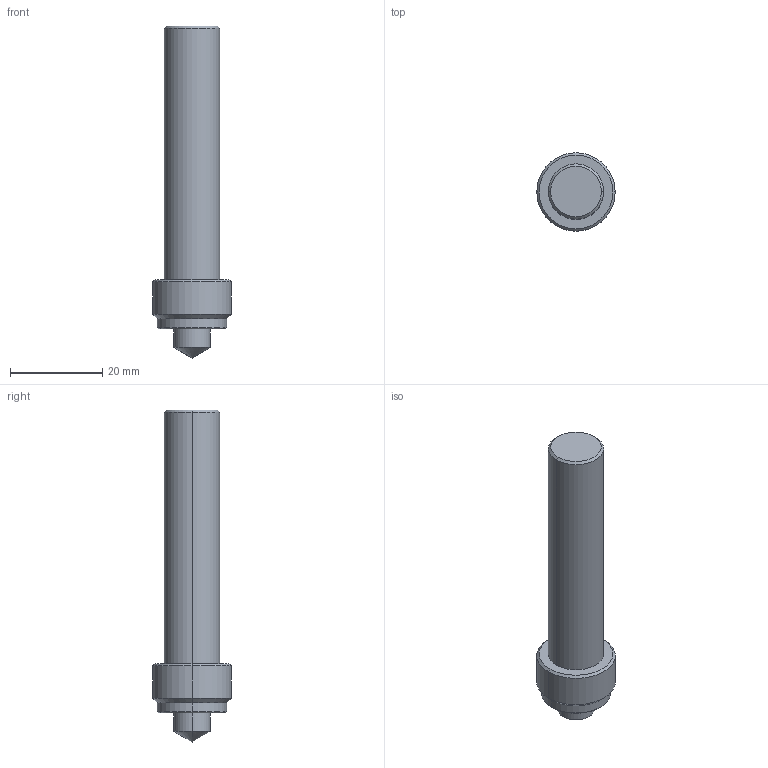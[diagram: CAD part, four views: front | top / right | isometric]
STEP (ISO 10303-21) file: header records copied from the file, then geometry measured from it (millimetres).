
FILE_DESCRIPTION(('STEP AP214'),'1');
FILE_NAME('cctmp_E7A9D4CE-DB0E-4CA4-A682-CF4202E79A1F_2021_04_06_14_05_31_0271..stp','2021-04-06T12:05:31',('Meusburger Georg GmbH & Co KG'),('CADClick - www.CADClick.com'),'Spatial InterOp 3D',' ','unknown authorization');
FILE_SCHEMA(('AUTOMOTIVE_DESIGN { 1 0 10303 214 1 1 1 1 }'));
Length unit declared in the file: millimetre
Products named in the file (1): WZB 119225_14.98
Bounding box: 17 x 17 x 72 mm (x, y, z)
Volume: 8735.7 mm3; surface area: 3124.1 mm2
Topology: 1 solids, 1 shells, 21 faces, 42 edges, 23 vertices
Faces by surface type: cone 10, cylinder 8, plane 3
Entity records: 720 total; most frequent: DIRECTION 106, CARTESIAN_POINT 85, ORIENTED_EDGE 80, AXIS2_PLACEMENT_3D 44, EDGE_CURVE 40, EDGE_LOOP 23, VERTEX_POINT 23, STYLED_ITEM 22
